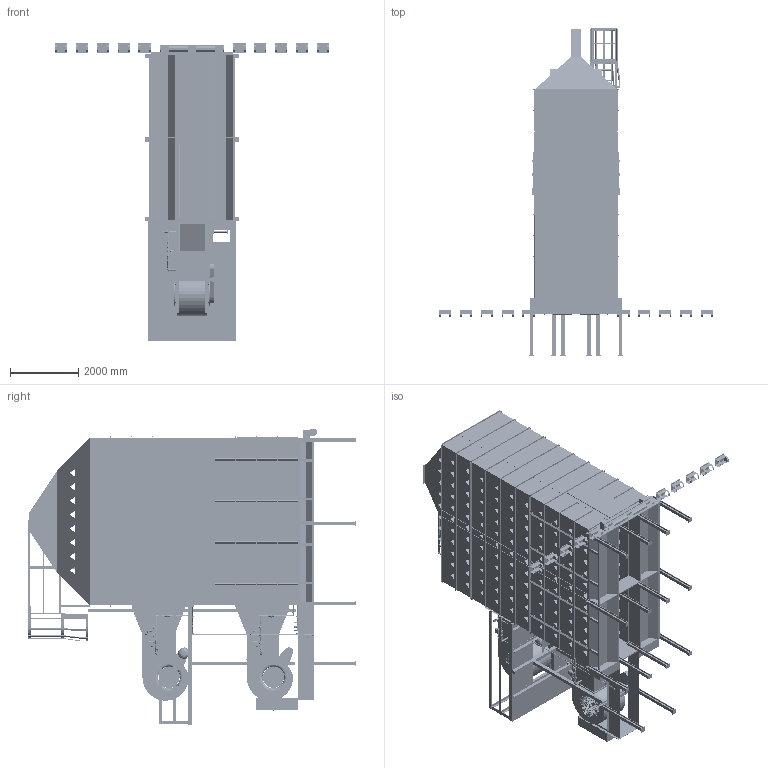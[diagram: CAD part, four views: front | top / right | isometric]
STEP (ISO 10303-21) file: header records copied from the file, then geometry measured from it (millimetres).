
FILE_DESCRIPTION(/* description */ ('PLAN AND ELEVATION VIEW FOR D16120 WITH ROOF & GRAVITY FILL'),/* implementation_level */ '2;1');
FILE_NAME(/* name */ 'C:\Engineering\Designs\Sales\Dryer\Workspaces\D16 All\D16120GF.stp',/* time_stamp */ '2025-01-06T16:46:50-06:00',/* author */ ('max.fleming'),/* organization */ (''),/* preprocessor_version */ 'ST-DEVELOPER v18.1',/* originating_system */ 'Autodesk Inventor 2022',/* authorisation */ '');
FILE_SCHEMA (('AUTOMOTIVE_DESIGN { 1 0 10303 214 3 1 1 }'));
Products named in the file (28): D16120GF; 16FT FRAME; 8FT LHRH FRAME; 16FT CATWALK; 16FT Grav Assy; 16FT ROOF GF; 8FTRoof GF LHRH; Tongue; 16FT BODY TIER; LH Body; RH Body; LH Body_MIR6; RH Body_MIR6; Outside Splice; Standard Size End Plenum Panels; Ladder 2' section; Trans & Blower; Belt Shield; Screen Guard; LP Fuel; Stiffeners; Platform; Platform Support 1-T; 1 Tier Vertical Support; 6'' CROSS AUGER; Leg Kit-02; LP Inlet; Liquid Propane Pipe
Assembly tree (112 placements, depth 3):
  D16120GF
    16FT FRAME
      8FT LHRH FRAME  x2
    16FT CATWALK
    16FT Grav Assy
    16FT ROOF GF
      8FTRoof GF LHRH  x2
    Tongue
    16FT BODY TIER  x10
      LH Body
      RH Body
      LH Body_MIR6
      RH Body_MIR6
      Outside Splice
    Leg Kit-02  x12
    Standard Size End Plenum Panels  x17
    Trans & Blower  x2
    Belt Shield  x2
    Screen Guard  x4
    LP Fuel  x2
    Stiffeners  x32
    Platform
    Platform Support 1-T
    1 Tier Vertical Support  x8
    LP Inlet
    Liquid Propane Pipe  x5
  Ladder 2' section
  6'' CROSS AUGER
Bounding box: 8007.35 x 9558.74 x 8695.06 mm (x, y, z)
Volume: 55447216731 mm3; surface area: 775369078.3 mm2
Topology: 460 solids, 618 shells, 36858 faces, 95446 edges, 60917 vertices
Faces by surface type: plane 17094, cylinder 10828, bspline 3771, cone 3392, torus 1591, sphere 182
Full cylindrical faces by diameter (mm): 1 x10, 1.651 x6, 1.753 x6, 1.778 x12, 2.019 x4, 2.108 x2, 2.286 x24, 2.489 x2, 2.54 x4, 3.091 x288, 3.175 x5, 3.251 x20, 3.306 x288, 3.522 x2, 3.658 x28, 3.8 x16, 4 x384, 4.039 x20, 4.166 x256, 4.191 x4, 4.229 x2, 4.267 x2, 4.369 x8, 4.445 x8, 4.701 x592, 4.762 x16, 4.851 x8, 4.928 x32, 5.283 x2, 5.527 x20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
Entity records: 735829 total; most frequent: CARTESIAN_POINT 335323, ORIENTED_EDGE 83916, DIRECTION 74930, EDGE_CURVE 42098, VERTEX_POINT 26860, AXIS2_PLACEMENT_3D 26150, LINE 22630, VECTOR 22630
